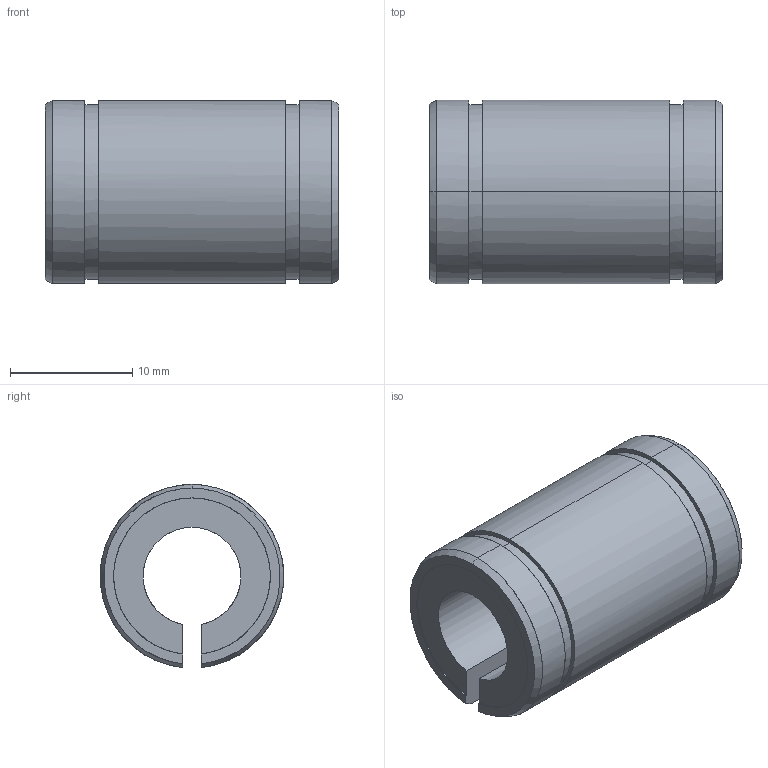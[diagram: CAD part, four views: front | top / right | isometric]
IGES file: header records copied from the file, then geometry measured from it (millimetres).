
Global section: file name: No Iges File Name specified; native system: AutoDesk Inventor R10; preprocessor: AutoDesk Inventor Iges Exporter R10; author: No Author specified; organization: No Organization specified; date: 20101208.095738; units: millimetre
Bounding box: 24 x 14.99 x 14.96 mm (x, y, z)
Surface area: 2109.7 mm2 (no closed solid volume)
Topology: 0 solids, 0 shells, 30 faces, 244 edges, 244 vertices
Faces by surface type: bspline 30
